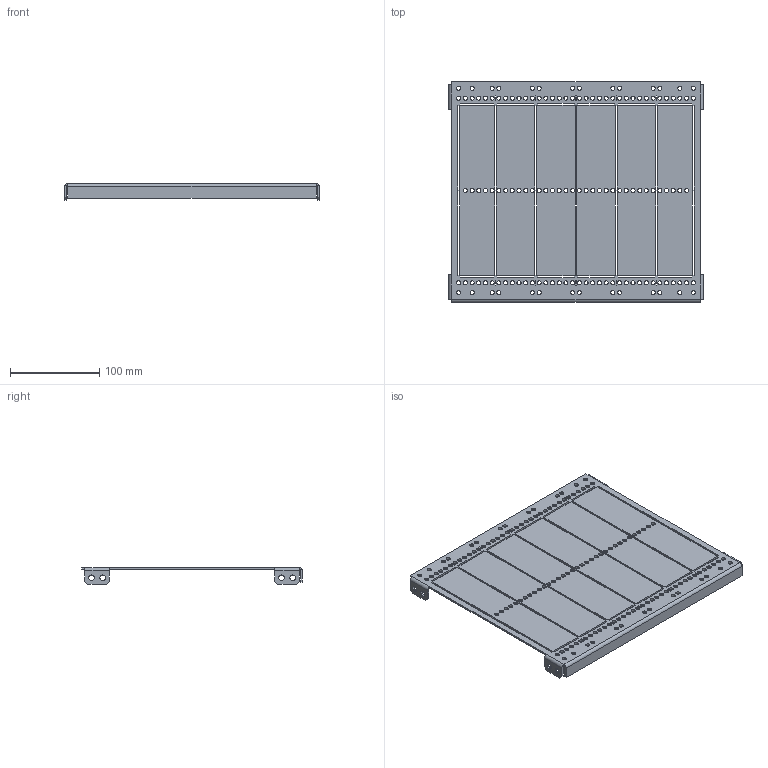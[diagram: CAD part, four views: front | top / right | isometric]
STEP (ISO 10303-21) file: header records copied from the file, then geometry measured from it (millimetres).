
FILE_DESCRIPTION(('STEP AP203'), '1');
FILE_NAME('Ïàíåëü áîêîâàÿ ôóíêöèîíàëüíîãî áëîêà Â250õÃ400 ìì OptiBox M (2 øò) 419067 ÊÝÀÇ', '', ('UNSPECIFIED'), ('UNSPECIFIED'), 'C3D Converter', 'C3D Toolkit', '');
FILE_SCHEMA(('CONFIG_CONTROL_DESIGN'));
Length unit declared in the file: millimetre
Bounding box: 285 x 247 x 19 mm (x, y, z)
Volume: 136860.5 mm3; surface area: 151097.6 mm2
Topology: 1 solids, 1 shells, 346 faces, 992 edges, 648 vertices
Faces by surface type: plane 194, cylinder 152
Full cylindrical faces by diameter (mm): 4.6 x134, 6.3 x8
Entity records: 11362 total; most frequent: DIRECTION 1848, CARTESIAN_POINT 1845, ORIENTED_EDGE 1700, EDGE_CURVE 850, EDGE_LOOP 844, AXIS2_PLACEMENT_3D 651, VERTEX_POINT 648, FACE_BOUND 560
